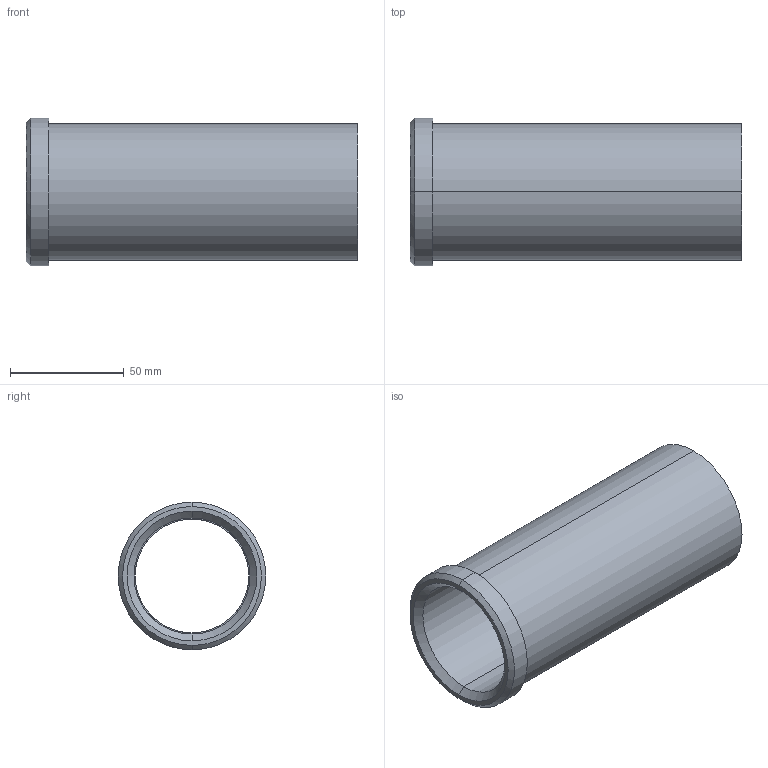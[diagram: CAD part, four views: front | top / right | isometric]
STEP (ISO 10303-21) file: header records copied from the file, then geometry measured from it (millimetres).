
FILE_DESCRIPTION(('CATIA V5 STEP Exchange'),'2;1');
FILE_NAME('C:\Users\Utente\Desktop\IO LAVORO\3D X SITO CF\X SITO\PLASTICA\353\353-50X146.stp','2021-05-14T13:17:01+00:00',('none'),('none'),'CATIA Version 5 Release 20 GA (IN-10)','CATIA V5 STEP AP203','none');
FILE_SCHEMA(('CONFIG_CONTROL_DESIGN'));
Length unit declared in the file: millimetre
Products named in the file (1): 353-50X146
Bounding box: 146 x 65 x 65 mm (x, y, z)
Volume: 126108.2 mm3; surface area: 52817.8 mm2
Topology: 1 solids, 1 shells, 18 faces, 58 edges, 44 vertices
Faces by surface type: cylinder 8, plane 4, cone 4, torus 2
Entity records: 840 total; most frequent: CARTESIAN_POINT 289, ORIENTED_EDGE 116, DIRECTION 82, EDGE_CURVE 58, AXIS2_PLACEMENT_3D 53, VERTEX_POINT 44, CIRCLE 34, EDGE_LOOP 22
